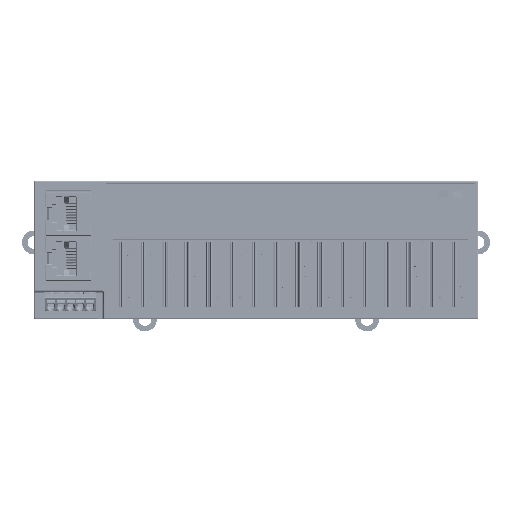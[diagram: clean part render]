
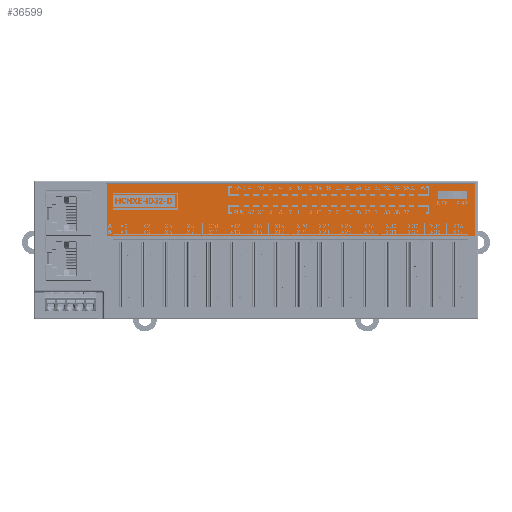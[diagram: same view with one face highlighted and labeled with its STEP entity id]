
A CAD part, top view. The second image highlights one B-rep face of the part: STEP entity #36599.
In plain terms, the highlighted planar face has unit normal (0, 0, 1).
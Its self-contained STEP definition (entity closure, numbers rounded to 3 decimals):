
#11299=DIRECTION('',(1.,0.,0.));
#11300=VECTOR('',#11299,132.66);
#11301=CARTESIAN_POINT('',(-52.83,1.22,24.));
#11302=LINE('',#11301,#11300);
#11303=DIRECTION('',(0.,-1.,0.));
#11304=VECTOR('',#11303,18.91);
#11305=CARTESIAN_POINT('',(-52.83,20.13,24.));
#11306=LINE('',#11305,#11304);
#11311=DIRECTION('',(1.,0.,0.));
#11312=VECTOR('',#11311,132.66);
#11313=CARTESIAN_POINT('',(-52.83,20.13,24.));
#11314=LINE('',#11313,#11312);
#11323=DIRECTION('',(0.,-1.,0.));
#11324=VECTOR('',#11323,18.91);
#11325=CARTESIAN_POINT('',(79.83,20.13,24.));
#11326=LINE('',#11325,#11324);
#11331=DIRECTION('',(1.,0.,0.));
#11332=VECTOR('',#11331,10.4);
#11333=CARTESIAN_POINT('',(66.55,17.655,24.));
#11334=LINE('',#11333,#11332);
#11343=DIRECTION('',(0.,-1.,0.));
#11344=VECTOR('',#11343,2.9);
#11345=CARTESIAN_POINT('',(66.55,17.655,24.));
#11346=LINE('',#11345,#11344);
#11351=DIRECTION('',(1.,0.,0.));
#11352=VECTOR('',#11351,10.4);
#11353=CARTESIAN_POINT('',(66.55,14.755,24.));
#11354=LINE('',#11353,#11352);
#11355=DIRECTION('',(0.,-1.,0.));
#11356=VECTOR('',#11355,2.9);
#11357=CARTESIAN_POINT('',(76.95,17.655,24.));
#11358=LINE('',#11357,#11356);
#27977=CARTESIAN_POINT('',(-52.83,1.22,24.));
#27978=CARTESIAN_POINT('',(79.83,1.22,24.));
#27979=VERTEX_POINT('',#27977);
#27980=VERTEX_POINT('',#27978);
#27981=CARTESIAN_POINT('',(79.83,20.13,24.));
#27982=VERTEX_POINT('',#27981);
#27983=CARTESIAN_POINT('',(-52.83,20.13,24.));
#27984=VERTEX_POINT('',#27983);
#27985=CARTESIAN_POINT('',(66.55,17.655,24.));
#27986=CARTESIAN_POINT('',(76.95,17.655,24.));
#27987=VERTEX_POINT('',#27985);
#27988=VERTEX_POINT('',#27986);
#27989=CARTESIAN_POINT('',(76.95,14.755,24.));
#27990=VERTEX_POINT('',#27989);
#27991=CARTESIAN_POINT('',(66.55,14.755,24.));
#27992=VERTEX_POINT('',#27991);
#36578=CARTESIAN_POINT('',(13.5,10.675,24.));
#36579=DIRECTION('',(0.,0.,1.));
#36580=DIRECTION('',(1.,0.,0.));
#36581=AXIS2_PLACEMENT_3D('',#36578,#36579,#36580);
#36582=PLANE('',#36581);
#36583=ORIENTED_EDGE('',*,*,#36502,.F.);
#36584=ORIENTED_EDGE('',*,*,#36524,.F.);
#36585=ORIENTED_EDGE('',*,*,#36545,.T.);
#36586=ORIENTED_EDGE('',*,*,#36565,.T.);
#36587=EDGE_LOOP('',(#36583,#36584,#36585,#36586));
#36588=FACE_OUTER_BOUND('',#36587,.F.);
#36590=ORIENTED_EDGE('',*,*,#36589,.F.);
#36592=ORIENTED_EDGE('',*,*,#36591,.T.);
#36594=ORIENTED_EDGE('',*,*,#36593,.T.);
#36596=ORIENTED_EDGE('',*,*,#36595,.F.);
#36597=EDGE_LOOP('',(#36590,#36592,#36594,#36596));
#36598=FACE_BOUND('',#36597,.F.);
#36599=ADVANCED_FACE('',(#36588,#36598),#36582,.T.);
#36502=EDGE_CURVE('',#27979,#27980,#11302,.T.);
#36524=EDGE_CURVE('',#27984,#27979,#11306,.T.);
#36545=EDGE_CURVE('',#27984,#27982,#11314,.T.);
#36565=EDGE_CURVE('',#27982,#27980,#11326,.T.);
#36589=EDGE_CURVE('',#27987,#27988,#11334,.T.);
#36591=EDGE_CURVE('',#27987,#27992,#11346,.T.);
#36593=EDGE_CURVE('',#27992,#27990,#11354,.T.);
#36595=EDGE_CURVE('',#27988,#27990,#11358,.T.);
